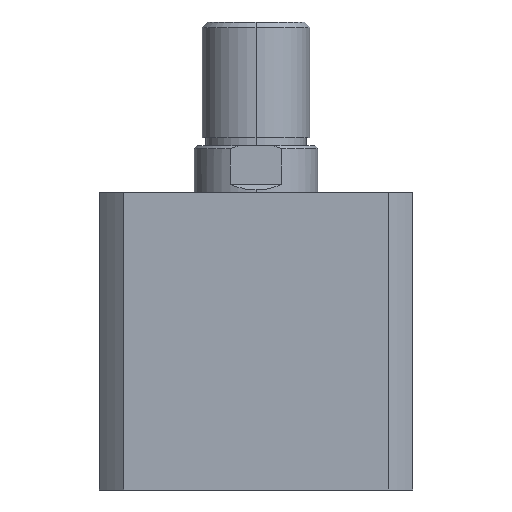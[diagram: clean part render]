
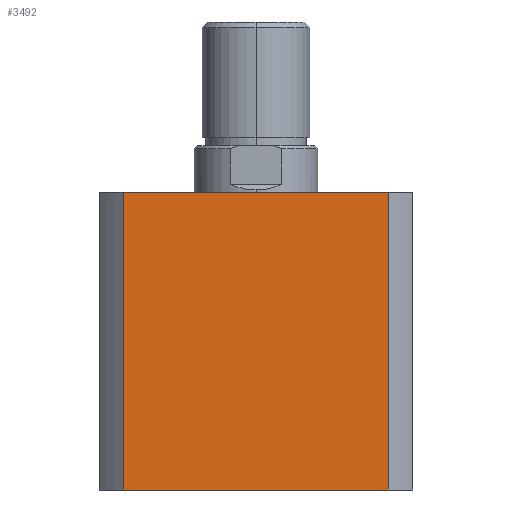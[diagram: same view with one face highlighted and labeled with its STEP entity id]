
A CAD part, left-side view. The second image highlights one B-rep face of the part: STEP entity #3492.
In plain terms, the highlighted planar face has unit normal (-1, 0, 0).
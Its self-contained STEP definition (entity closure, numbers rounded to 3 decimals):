
#417 = DIRECTION ( 'NONE',  ( 0., -1., 0. ) ) ;
#418 = DIRECTION ( 'NONE',  ( 0., 0., -1. ) ) ;
#426 = CARTESIAN_POINT ( 'NONE',  ( -57., -47.971, 108. ) ) ;
#436 = CARTESIAN_POINT ( 'NONE',  ( -57., 0., 108. ) ) ;
#504 = CARTESIAN_POINT ( 'NONE',  ( -57., 47.971, 108. ) ) ;
#506 = CARTESIAN_POINT ( 'NONE',  ( -57., -47.971, 108. ) ) ;
#509 = CARTESIAN_POINT ( 'NONE',  ( -57., 47.971, 0. ) ) ;
#630 = CARTESIAN_POINT ( 'NONE',  ( -57., -47.971, 0. ) ) ;
#761 = ORIENTED_EDGE ( 'NONE', *, *, #3061, .F. ) ;
#771 = ORIENTED_EDGE ( 'NONE', *, *, #3060, .F. ) ;
#773 = ORIENTED_EDGE ( 'NONE', *, *, #3167, .T. ) ;
#913 = ORIENTED_EDGE ( 'NONE', *, *, #3199, .T. ) ;
#1058 = FACE_OUTER_BOUND ( 'NONE', #2603, .T. ) ;
#2258 = VERTEX_POINT ( 'NONE', #630 ) ;
#2329 = VERTEX_POINT ( 'NONE', #509 ) ;
#2330 = VERTEX_POINT ( 'NONE', #506 ) ;
#2332 = VERTEX_POINT ( 'NONE', #504 ) ;
#2542 = AXIS2_PLACEMENT_3D ( 'NONE', #5061, #5055, #5054 ) ;
#2603 = EDGE_LOOP ( 'NONE', ( #773, #771, #761, #913 ) ) ;
#2785 = DIRECTION ( 'NONE',  ( 0., 0., -1. ) ) ;
#2787 = CARTESIAN_POINT ( 'NONE',  ( -57., 47.971, 108. ) ) ;
#2973 = CARTESIAN_POINT ( 'NONE',  ( -57., 0., 0. ) ) ;
#2978 = DIRECTION ( 'NONE',  ( 0., -1., 0. ) ) ;
#3060 = EDGE_CURVE ( 'NONE', #2330, #2258, #3663, .T. ) ;
#3061 = EDGE_CURVE ( 'NONE', #2332, #2330, #3668, .T. ) ;
#3167 = EDGE_CURVE ( 'NONE', #2329, #2258, #3829, .T. ) ;
#3199 = EDGE_CURVE ( 'NONE', #2332, #2329, #3869, .T. ) ;
#3492 = ADVANCED_FACE ( 'NONE', ( #1058 ), #5058, .F. ) ;
#3663 = LINE ( 'NONE', #426, #3673 ) ;
#3668 = LINE ( 'NONE', #436, #3675 ) ;
#3673 = VECTOR ( 'NONE', #418, 1000. ) ;
#3675 = VECTOR ( 'NONE', #417, 1000. ) ;
#3829 = LINE ( 'NONE', #2973, #3831 ) ;
#3831 = VECTOR ( 'NONE', #2978, 1000. ) ;
#3869 = LINE ( 'NONE', #2787, #3872 ) ;
#3872 = VECTOR ( 'NONE', #2785, 1000. ) ;
#5054 = DIRECTION ( 'NONE',  ( 0., 0., -1. ) ) ;
#5055 = DIRECTION ( 'NONE',  ( 1., 0., 0. ) ) ;
#5058 = PLANE ( 'NONE',  #2542 ) ;
#5061 = CARTESIAN_POINT ( 'NONE',  ( -57., 0., 108. ) ) ;
